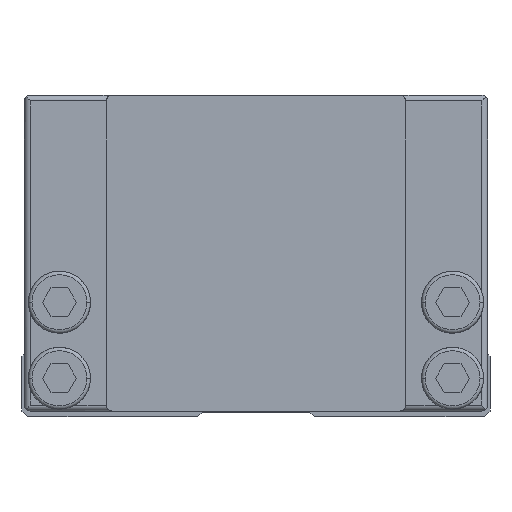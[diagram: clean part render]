
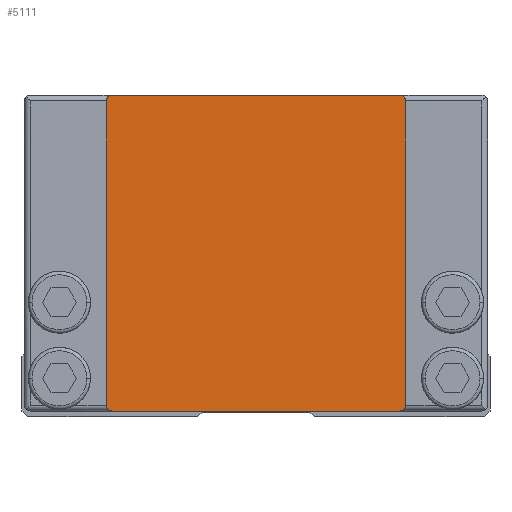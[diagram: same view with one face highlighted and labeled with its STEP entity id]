
A CAD part, front view. The second image highlights one B-rep face of the part: STEP entity #5111.
In plain terms, the highlighted planar face has unit normal (0, -1, 0).
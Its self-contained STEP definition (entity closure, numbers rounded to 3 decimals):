
#4483=EDGE_CURVE('',#9727,#4963,#12081,.T.);
#4963=VERTEX_POINT('',#12613);
#5037=VERTEX_POINT('',#12696);
#5111=ADVANCED_FACE('',(#12779),#12780,.T.);
#5233=VERTEX_POINT('',#12916);
#5587=EDGE_CURVE('',#4963,#8441,#13316,.T.);
#5837=VERTEX_POINT('',#13593);
#5881=VERTEX_POINT('',#13640);
#6553=EDGE_CURVE('',#5233,#5837,#14376,.T.);
#7991=EDGE_CURVE('',#5837,#5881,#15971,.T.);
#7997=EDGE_CURVE('',#10125,#5233,#15977,.T.);
#8441=VERTEX_POINT('',#16462);
#9231=EDGE_CURVE('',#5881,#9727,#17339,.T.);
#9727=VERTEX_POINT('',#17890);
#10125=VERTEX_POINT('',#18346);
#10493=EDGE_CURVE('',#8441,#5037,#18760,.T.);
#11087=EDGE_CURVE('',#5037,#10125,#19415,.T.);
#12081=CIRCLE('',#20751,0.5);
#12613=CARTESIAN_POINT('',(12.8,0.0,27.0));
#12696=CARTESIAN_POINT('',(12.3,0.0,0.5));
#12779=FACE_OUTER_BOUND('',#21826,.T.);
#12780=PLANE('',#21827);
#12916=CARTESIAN_POINT('',(-12.8,0.0,1.0));
#13316=LINE('',#22561,#22562);
#13593=CARTESIAN_POINT('',(-12.8,0.0,27.0));
#13640=CARTESIAN_POINT('',(-12.3,0.0,27.5));
#14376=LINE('',#24131,#24132);
#15971=CIRCLE('',#26426,0.5);
#15977=CIRCLE('',#26435,0.5);
#16462=CARTESIAN_POINT('',(12.8,0.0,1.0));
#17339=LINE('',#28404,#28405);
#17890=CARTESIAN_POINT('',(12.3,0.0,27.5));
#18346=CARTESIAN_POINT('',(-12.3,0.0,0.5));
#18760=CIRCLE('',#30503,0.5);
#19415=LINE('',#31431,#31432);
#20751=AXIS2_PLACEMENT_3D('',#32641,#32642,#32643);
#21826=EDGE_LOOP('',(#33452,#33453,#33454,#33455,#33456,#33457,#33458,#33459));
#21827=AXIS2_PLACEMENT_3D('',#33460,#33461,#33462);
#22561=CARTESIAN_POINT('',(12.8,0.0,1.0));
#22562=VECTOR('',#34094,1.0);
#24131=CARTESIAN_POINT('',(-12.8,0.0,27.0));
#24132=VECTOR('',#35282,1.0);
#26426=AXIS2_PLACEMENT_3D('',#37115,#37116,#37117);
#26435=AXIS2_PLACEMENT_3D('',#37119,#37120,#37121);
#28404=CARTESIAN_POINT('',(12.3,0.0,27.5));
#28405=VECTOR('',#38712,1.0);
#30503=AXIS2_PLACEMENT_3D('',#40481,#40482,#40483);
#31431=CARTESIAN_POINT('',(-12.3,0.0,0.5));
#31432=VECTOR('',#41210,1.0);
#32641=CARTESIAN_POINT('',(12.3,0.0,27.0));
#32642=DIRECTION('',(-0.0,1.0,0.0));
#32643=DIRECTION('',(1.0,0.0,0.));
#33452=ORIENTED_EDGE('',*,*,#6553,.F.);
#33453=ORIENTED_EDGE('',*,*,#7997,.F.);
#33454=ORIENTED_EDGE('',*,*,#11087,.F.);
#33455=ORIENTED_EDGE('',*,*,#10493,.F.);
#33456=ORIENTED_EDGE('',*,*,#5587,.F.);
#33457=ORIENTED_EDGE('',*,*,#4483,.F.);
#33458=ORIENTED_EDGE('',*,*,#9231,.F.);
#33459=ORIENTED_EDGE('',*,*,#7991,.F.);
#33460=CARTESIAN_POINT('',(0.,0.0,14.0));
#33461=DIRECTION('',(0.0,-1.0,0.0));
#33462=DIRECTION('',(1.0,0.0,0.0));
#34094=DIRECTION('',(-0.0,0.0,-1.0));
#35282=DIRECTION('',(0.0,0.0,1.0));
#37115=CARTESIAN_POINT('',(-12.3,0.0,27.0));
#37116=DIRECTION('',(0.0,1.0,-0.0));
#37117=DIRECTION('',(0.,0.0,1.0));
#37119=CARTESIAN_POINT('',(-12.3,0.0,1.));
#37120=DIRECTION('',(0.0,1.0,-0.0));
#37121=DIRECTION('',(-1.0,0.0,0.));
#38712=DIRECTION('',(1.0,0.0,0.0));
#40481=CARTESIAN_POINT('',(12.3,0.0,1.));
#40482=DIRECTION('',(-0.0,1.0,0.0));
#40483=DIRECTION('',(0.0,0.0,-1.0));
#41210=DIRECTION('',(-1.0,0.0,-0.0));
